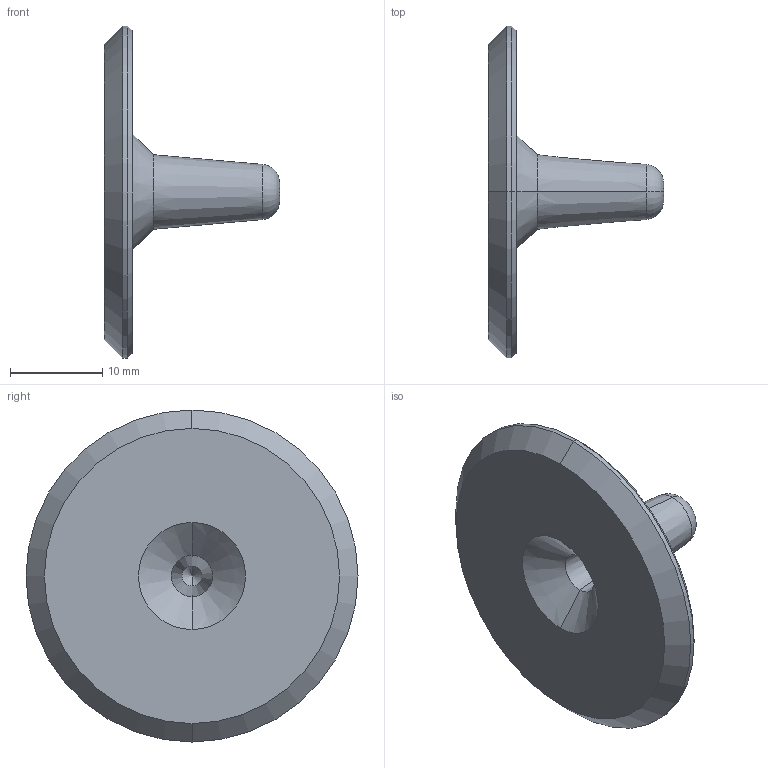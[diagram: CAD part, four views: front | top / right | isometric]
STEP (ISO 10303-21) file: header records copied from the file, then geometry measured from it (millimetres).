
FILE_DESCRIPTION (( 'STEP AP203' ), '1' );
FILE_NAME ('Mushroom Valve Holder_Part 1.STEP', '2025-06-17T18:19:45', ( '' ), ( '' ), 'SwSTEP 2.0', 'SolidWorks 2012', '' );
FILE_SCHEMA (( 'CONFIG_CONTROL_DESIGN' ));
Length unit declared in the file: millimetre
Products named in the file (1): Mushroom Valve Holder_Part 1
Bounding box: 19 x 36 x 36 mm (x, y, z)
Volume: 2532.9 mm3; surface area: 2766.1 mm2
Topology: 1 solids, 1 shells, 24 faces, 48 edges, 27 vertices
Faces by surface type: cone 14, cylinder 4, plane 4, torus 2
Entity records: 687 total; most frequent: DIRECTION 124, CARTESIAN_POINT 98, ORIENTED_EDGE 92, AXIS2_PLACEMENT_3D 53, EDGE_CURVE 46, CIRCLE 28, VERTEX_POINT 27, EDGE_LOOP 27
